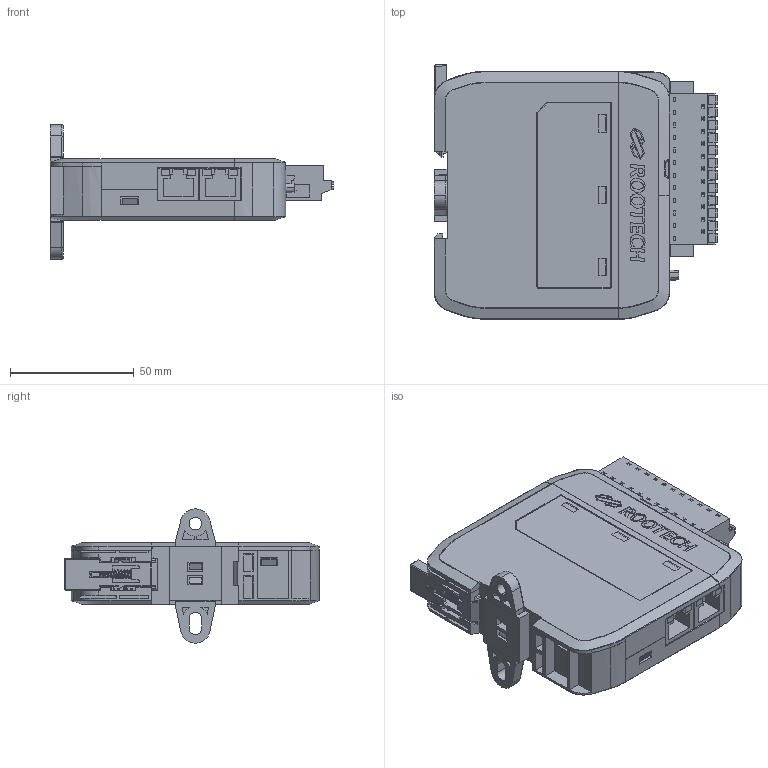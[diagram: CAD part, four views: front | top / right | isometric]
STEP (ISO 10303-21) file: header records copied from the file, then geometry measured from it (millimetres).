
FILE_DESCRIPTION (( 'STEP AP214' ), '1' );
FILE_NAME ('A2750IO-S Ass''y_230615.STEP', '2023-06-15T02:23:06', ( '' ), ( '' ), 'SwSTEP 2.0', 'SolidWorks 2023', '' );
FILE_SCHEMA (( 'AUTOMOTIVE_DESIGN' ));
Length unit declared in the file: millimetre
Products named in the file (19): 1013190000; A2750IO-S Ass''y_230615; Case-F; pan cross head_ks_KS 1023 PC- M3 x 6-N; mounting-l; MJ-657PP-8L-SD-G(RJ45); PCB-Main Ass''y; SL 5.08HC_12_90F 3.2SN OR BX 1148940000; Spring(0.6 X 19); Case-M; Case-Top Ass''y; S-1211A; Sticker; Hook; Case-Top; Membrane; mounting-s
Assembly tree (20 placements, depth 4):
  A2750IO-S Ass''y_230615
    Case-M
      Case-M
      PCB-Main Ass''y
        SL 5.08HC_12_90F 3.2SN OR BX 1148940000
        S-1211A
        MJ-657PP-8L-SD-G(RJ45)  x2
    1013190000
    Case-Top Ass''y
      Case-Top
      Membrane
    mounting-l
    mounting-s
    Sticker  x2
    Case-F
      Case-F
    Hook
    Spring(0.6 X 19)
    pan cross head_ks_KS 1023 PC- M3 x 6-N
Bounding box: 114.48 x 102.69 x 54.2 mm (x, y, z)
Volume: 81526.4 mm3; surface area: 97323 mm2
Topology: 30 solids, 30 shells, 4094 faces, 11299 edges, 7466 vertices
Faces by surface type: plane 3173, cylinder 478, bspline 308, cone 117, torus 10, sphere 8
Entity records: 143679 total; most frequent: CARTESIAN_POINT 43136, ORIENTED_EDGE 22186, DIRECTION 18294, EDGE_CURVE 11093, LINE 8886, VECTOR 8886, VERTEX_POINT 7334, AXIS2_PLACEMENT_3D 4704
